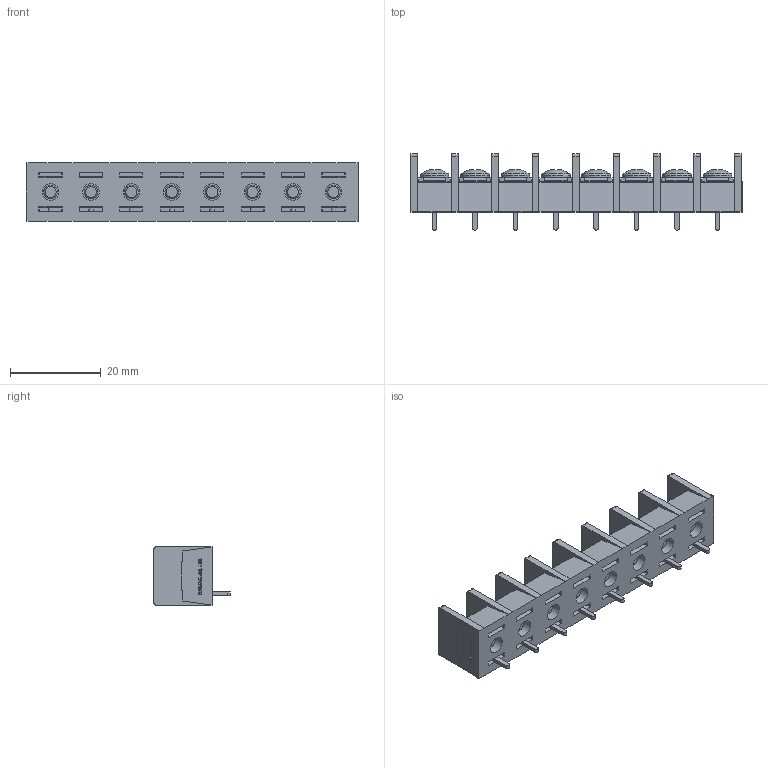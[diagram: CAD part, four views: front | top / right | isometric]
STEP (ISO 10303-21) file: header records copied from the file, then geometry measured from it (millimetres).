
FILE_DESCRIPTION(/* description */ ('Alibre Inc.'),/* implementation_level */ '2;1');
FILE_NAME(/* name */ 'export0',/* time_stamp */ '2015-10-20T08:15:07+09:00',/* author */ (''),/* organization */ (''),/* preprocessor_version */ 'ST-DEVELOPER v14',/* originating_system */ 'Alibre',/* authorisation */ '');
FILE_SCHEMA (('CONFIG_CONTROL_DESIGN'));
Length unit declared in the file: centimetre
Products named in the file (1): ID_1
Bounding box: 73.03 x 16.8 x 12.8 mm (x, y, z)
Volume: 6793.4 mm3; surface area: 8469.6 mm2
Topology: 1 solids, 137 shells, 2638 faces, 6776 edges, 4484 vertices
Faces by surface type: plane 1972, bspline 520, cylinder 82, cone 40, torus 16, sphere 8
Full cylindrical faces by diameter (mm): 3 x16, 3.7 x8, 4.6 x8, 6.3 x8
Entity records: 76193 total; most frequent: CARTESIAN_POINT 18465, ORIENTED_EDGE 13376, DIRECTION 7948, EDGE_CURVE 6688, VECTOR 5154, LINE 5154, VERTEX_POINT 4460, EDGE_LOOP 2886
